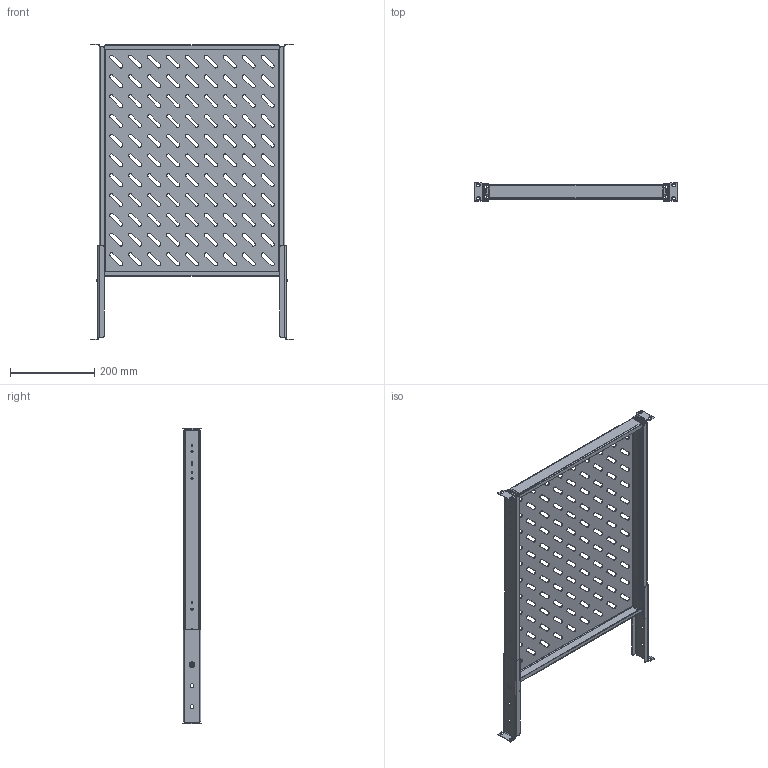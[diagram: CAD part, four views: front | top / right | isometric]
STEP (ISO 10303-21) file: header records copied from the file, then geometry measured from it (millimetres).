
FILE_DESCRIPTION (( 'STEP AP214' ), '1' );
FILE_NAME ('SH 48.55 IÌ Ïîëêà 19'''' âûäâèæíàÿ (700 ìì.).STEP', '2022-08-17T13:11:52', ( '' ), ( '' ), 'SwSTEP 2.0', 'SolidWorks 2018', '' );
FILE_SCHEMA (( 'AUTOMOTIVE_DESIGN' ));
Length unit declared in the file: millimetre
Products named in the file (1): SH 48.55 IÌ Ïîëêà 19'''' âûäâèæíàÿ (700 ìì.)
Bounding box: 482.6 x 43.6 x 702.8 mm (x, y, z)
Volume: 632231 mm3; surface area: 1010270.8 mm2
Topology: 15 solids, 15 shells, 1285 faces, 3365 edges, 2096 vertices
Faces by surface type: plane 688, cylinder 573, cone 8, torus 8, sphere 4, bspline 4
Entity records: 54328 total; most frequent: DIRECTION 7099, CARTESIAN_POINT 6971, ORIENTED_EDGE 6722, EDGE_CURVE 3361, AXIS2_PLACEMENT_3D 2464, VECTOR 2171, LINE 2171, VERTEX_POINT 2096
